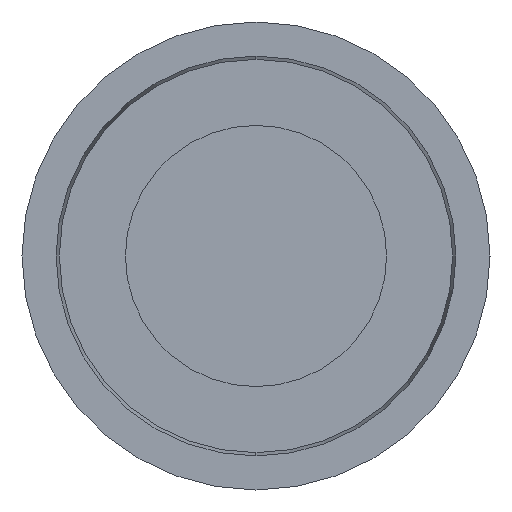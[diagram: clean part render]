
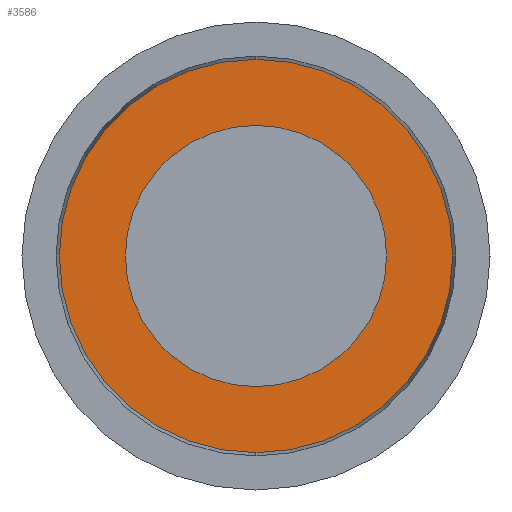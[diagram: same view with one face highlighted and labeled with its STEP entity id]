
A CAD part, left-side view. The second image highlights one B-rep face of the part: STEP entity #3586.
In plain terms, the highlighted planar face has unit normal (-1, 0, 0).
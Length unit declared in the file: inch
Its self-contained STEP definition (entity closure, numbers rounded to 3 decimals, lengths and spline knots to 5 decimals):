
#85 = CARTESIAN_POINT ( 'NONE',  ( 0., 0., 0. ) ) ;
#290 = EDGE_LOOP ( 'NONE', ( #1857, #3239 ) ) ;
#1244 = EDGE_CURVE ( 'NONE', #4126, #8440, #18520, .T. ) ;
#1502 = CARTESIAN_POINT ( 'NONE',  ( 0., 0., 0.06975 ) ) ;
#1630 = CIRCLE ( 'NONE', #10771, 0.105 ) ;
#1857 = ORIENTED_EDGE ( 'NONE', *, *, #9852, .F. ) ;
#1998 = AXIS2_PLACEMENT_3D ( 'NONE', #85, #4997, #14150 ) ;
#2808 = CARTESIAN_POINT ( 'NONE',  ( 0., 0., 0. ) ) ;
#3155 = CARTESIAN_POINT ( 'NONE',  ( 0., 0., -0.06975 ) ) ;
#3239 = ORIENTED_EDGE ( 'NONE', *, *, #15496, .F. ) ;
#3586 = ADVANCED_FACE ( 'NONE', ( #7019, #5322 ), #16394, .F. ) ;
#4076 = CARTESIAN_POINT ( 'NONE',  ( 0., 0.06975, 0. ) ) ;
#4126 = VERTEX_POINT ( 'NONE', #7684 ) ;
#4830 = DIRECTION ( 'NONE',  ( -1., 0., 0. ) ) ;
#4997 = DIRECTION ( 'NONE',  ( -1., 0., 0. ) ) ;
#5088 = ORIENTED_EDGE ( 'NONE', *, *, #5455, .T. ) ;
#5322 = FACE_OUTER_BOUND ( 'NONE', #5402, .T. ) ;
#5402 = EDGE_LOOP ( 'NONE', ( #5088, #6025 ) ) ;
#5455 = EDGE_CURVE ( 'NONE', #8440, #4126, #1630, .T. ) ;
#5932 = CARTESIAN_POINT ( 'NONE',  ( 0., 0., 0. ) ) ;
#6025 = ORIENTED_EDGE ( 'NONE', *, *, #1244, .T. ) ;
#6498 = CIRCLE ( 'NONE', #8123, 0.06975 ) ;
#7019 = FACE_BOUND ( 'NONE', #290, .T. ) ;
#7195 = DIRECTION ( 'NONE',  ( -1., 0., 0. ) ) ;
#7684 = CARTESIAN_POINT ( 'NONE',  ( 0., 0., -0.105 ) ) ;
#7890 = DIRECTION ( 'NONE',  ( 0., 0., 1. ) ) ;
#8123 = AXIS2_PLACEMENT_3D ( 'NONE', #2808, #4830, #7890 ) ;
#8440 = VERTEX_POINT ( 'NONE', #16563 ) ;
#9852 = EDGE_CURVE ( 'NONE', #19728, #15350, #12397, .T. ) ;
#9983 = DIRECTION ( 'NONE',  ( 0., 0., -1. ) ) ;
#10144 = AXIS2_PLACEMENT_3D ( 'NONE', #4076, #11898, #9983 ) ;
#10733 = DIRECTION ( 'NONE',  ( 0., 0., 1. ) ) ;
#10771 = AXIS2_PLACEMENT_3D ( 'NONE', #5932, #14078, #10733 ) ;
#11898 = DIRECTION ( 'NONE',  ( 1., 0., 0. ) ) ;
#12397 = CIRCLE ( 'NONE', #1998, 0.06975 ) ;
#14078 = DIRECTION ( 'NONE',  ( -1., 0., 0. ) ) ;
#14150 = DIRECTION ( 'NONE',  ( 0., 0., 1. ) ) ;
#15350 = VERTEX_POINT ( 'NONE', #3155 ) ;
#15496 = EDGE_CURVE ( 'NONE', #15350, #19728, #6498, .T. ) ;
#16394 = PLANE ( 'NONE',  #10144 ) ;
#16461 = CARTESIAN_POINT ( 'NONE',  ( 0., 0., 0. ) ) ;
#16563 = CARTESIAN_POINT ( 'NONE',  ( 0., 0., 0.105 ) ) ;
#16679 = DIRECTION ( 'NONE',  ( 0., 0., 1. ) ) ;
#17517 = AXIS2_PLACEMENT_3D ( 'NONE', #16461, #7195, #16679 ) ;
#18520 = CIRCLE ( 'NONE', #17517, 0.105 ) ;
#19728 = VERTEX_POINT ( 'NONE', #1502 ) ;
